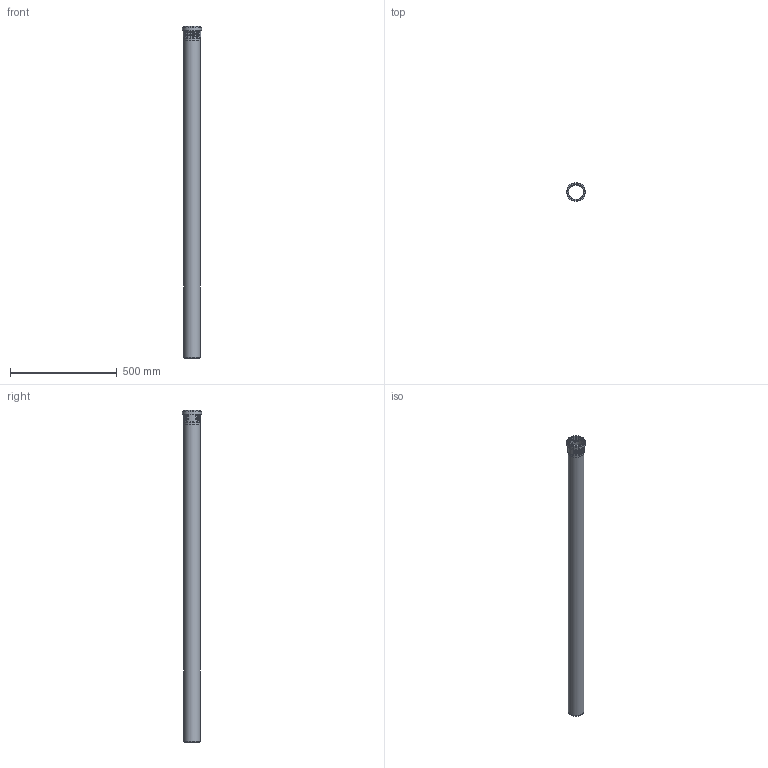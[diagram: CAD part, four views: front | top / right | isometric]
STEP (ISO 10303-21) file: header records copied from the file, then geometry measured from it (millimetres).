
FILE_DESCRIPTION(/* description */ (''),/* implementation_level */ '2;1');
FILE_NAME(/* name */ 'Z:\Geberit\Export\NewStep\390305.stp',/* time_stamp */ '2014-04-02T08:11:15+02:00',/* author */ ('ML'),/* organization */ (''),/* preprocessor_version */ 'ST-DEVELOPER v15.2',/* originating_system */ 'Autodesk Inventor 2014',/* authorisation */ '');
FILE_SCHEMA (('AUTOMOTIVE_DESIGN { 1 0 10303 214 3 1 1 }'));
Length unit declared in the file: millimetre
Products named in the file (3): 861428; 861583ohne; 390305
Bounding box: 89.4 x 89.4 x 1555.7 mm (x, y, z)
Volume: 938752.8 mm3; surface area: 725148.8 mm2
Topology: 2 solids, 2 shells, 47 faces, 104 edges, 71 vertices
Faces by surface type: torus 24, cylinder 11, plane 10, cone 2
Full cylindrical faces by diameter (mm): 70 x2, 75.2 x2, 76 x2, 78.6 x1, 81.2 x2, 84.2 x1, 89.4 x1
Entity records: 2003 total; most frequent: CARTESIAN_POINT 962, DIRECTION 182, ORIENTED_EDGE 174, AXIS2_PLACEMENT_3D 91, EDGE_CURVE 87, EDGE_LOOP 78, VERTEX_POINT 71, STYLED_ITEM 49
